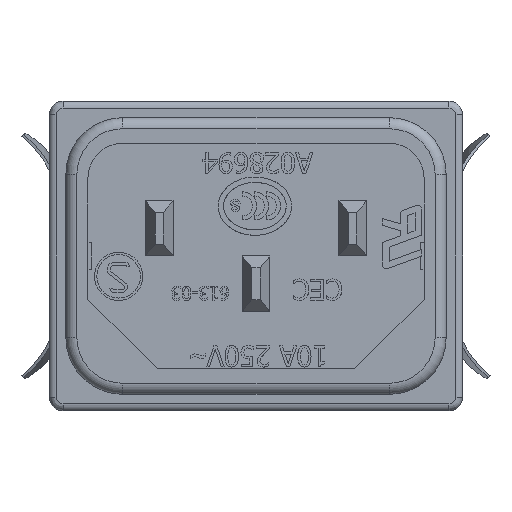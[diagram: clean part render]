
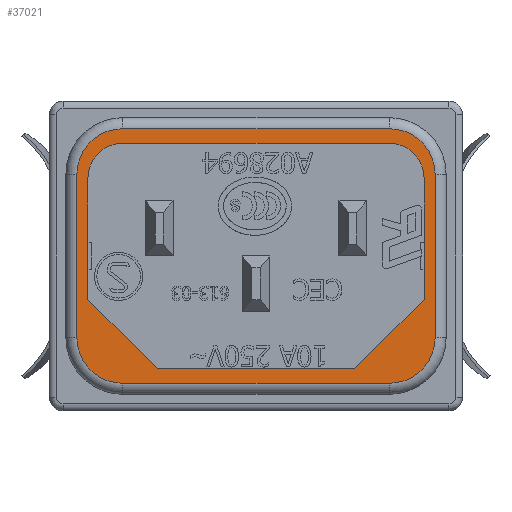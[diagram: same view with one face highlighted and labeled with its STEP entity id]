
A CAD part, front view. The second image highlights one B-rep face of the part: STEP entity #37021.
In plain terms, the highlighted planar face has unit normal (0, -1, 0).
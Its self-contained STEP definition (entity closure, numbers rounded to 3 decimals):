
#2551=LINE('',#53377,#6573);
#2553=LINE('',#53389,#6575);
#2555=LINE('',#53401,#6577);
#2557=LINE('',#53410,#6579);
#2564=LINE('',#53426,#6586);
#2565=LINE('',#53430,#6587);
#2566=LINE('',#53432,#6588);
#2567=LINE('',#53434,#6589);
#2568=LINE('',#53436,#6590);
#2569=LINE('',#53437,#6591);
#6573=VECTOR('',#43580,10.);
#6575=VECTOR('',#43594,10.);
#6577=VECTOR('',#43608,10.);
#6579=VECTOR('',#43620,10.);
#6586=VECTOR('',#43639,10.);
#6587=VECTOR('',#43642,10.);
#6588=VECTOR('',#43643,10.);
#6589=VECTOR('',#43644,10.);
#6590=VECTOR('',#43645,10.);
#6591=VECTOR('',#43646,10.);
#11400=FACE_BOUND('',#14144,.T.);
#12140=FACE_OUTER_BOUND('',#14143,.T.);
#14143=EDGE_LOOP('',(#28066,#28067,#28068,#28069,#28070,#28071,#28072,#28073));
#14144=EDGE_LOOP('',(#28074,#28075,#28076,#28077,#28078,#28079,#28080,#28081));
#15763=CIRCLE('',#39215,3.3);
#15766=CIRCLE('',#39220,3.3);
#15770=CIRCLE('',#39226,3.3);
#15774=CIRCLE('',#39232,3.3);
#15776=CIRCLE('',#39240,2.5);
#15777=CIRCLE('',#39241,2.5);
#17138=VERTEX_POINT('',#53365);
#17141=VERTEX_POINT('',#53370);
#17143=VERTEX_POINT('',#53375);
#17145=VERTEX_POINT('',#53381);
#17147=VERTEX_POINT('',#53387);
#17149=VERTEX_POINT('',#53393);
#17151=VERTEX_POINT('',#53399);
#17153=VERTEX_POINT('',#53405);
#17154=VERTEX_POINT('',#53422);
#17155=VERTEX_POINT('',#53423);
#17156=VERTEX_POINT('',#53425);
#17157=VERTEX_POINT('',#53427);
#17158=VERTEX_POINT('',#53429);
#17159=VERTEX_POINT('',#53431);
#17160=VERTEX_POINT('',#53433);
#17161=VERTEX_POINT('',#53435);
#21185=EDGE_CURVE('',#17141,#17138,#15763,.T.);
#21187=EDGE_CURVE('',#17143,#17141,#2551,.T.);
#21190=EDGE_CURVE('',#17145,#17143,#15766,.T.);
#21193=EDGE_CURVE('',#17147,#17145,#2553,.T.);
#21196=EDGE_CURVE('',#17149,#17147,#15770,.T.);
#21199=EDGE_CURVE('',#17151,#17149,#2555,.T.);
#21202=EDGE_CURVE('',#17153,#17151,#15774,.T.);
#21204=EDGE_CURVE('',#17138,#17153,#2557,.T.);
#21211=EDGE_CURVE('',#17154,#17155,#15776,.T.);
#21212=EDGE_CURVE('',#17155,#17156,#2564,.T.);
#21213=EDGE_CURVE('',#17156,#17157,#15777,.T.);
#21214=EDGE_CURVE('',#17157,#17158,#2565,.T.);
#21215=EDGE_CURVE('',#17158,#17159,#2566,.T.);
#21216=EDGE_CURVE('',#17159,#17160,#2567,.T.);
#21217=EDGE_CURVE('',#17160,#17161,#2568,.T.);
#21218=EDGE_CURVE('',#17161,#17154,#2569,.T.);
#28066=ORIENTED_EDGE('',*,*,#21185,.F.);
#28067=ORIENTED_EDGE('',*,*,#21187,.F.);
#28068=ORIENTED_EDGE('',*,*,#21190,.F.);
#28069=ORIENTED_EDGE('',*,*,#21193,.F.);
#28070=ORIENTED_EDGE('',*,*,#21196,.F.);
#28071=ORIENTED_EDGE('',*,*,#21199,.F.);
#28072=ORIENTED_EDGE('',*,*,#21202,.F.);
#28073=ORIENTED_EDGE('',*,*,#21204,.F.);
#28074=ORIENTED_EDGE('',*,*,#21211,.T.);
#28075=ORIENTED_EDGE('',*,*,#21212,.T.);
#28076=ORIENTED_EDGE('',*,*,#21213,.T.);
#28077=ORIENTED_EDGE('',*,*,#21214,.T.);
#28078=ORIENTED_EDGE('',*,*,#21215,.T.);
#28079=ORIENTED_EDGE('',*,*,#21216,.T.);
#28080=ORIENTED_EDGE('',*,*,#21217,.T.);
#28081=ORIENTED_EDGE('',*,*,#21218,.T.);
#35507=PLANE('',#39239);
#37021=ADVANCED_FACE('',(#12140,#11400),#35507,.T.);
#39215=AXIS2_PLACEMENT_3D('',#53372,#43574,#43575);
#39220=AXIS2_PLACEMENT_3D('',#53383,#43586,#43587);
#39226=AXIS2_PLACEMENT_3D('',#53395,#43600,#43601);
#39232=AXIS2_PLACEMENT_3D('',#53407,#43614,#43615);
#39239=AXIS2_PLACEMENT_3D('',#53421,#43635,#43636);
#39240=AXIS2_PLACEMENT_3D('',#53424,#43637,#43638);
#39241=AXIS2_PLACEMENT_3D('',#53428,#43640,#43641);
#43574=DIRECTION('center_axis',(0.,1.,0.));
#43575=DIRECTION('ref_axis',(0.707,0.,-0.707));
#43580=DIRECTION('',(0.,0.,-1.));
#43586=DIRECTION('center_axis',(0.,1.,0.));
#43587=DIRECTION('ref_axis',(0.707,0.,0.707));
#43594=DIRECTION('',(1.,0.,0.));
#43600=DIRECTION('center_axis',(0.,1.,0.));
#43601=DIRECTION('ref_axis',(-0.707,0.,0.707));
#43608=DIRECTION('',(0.,0.,1.));
#43614=DIRECTION('center_axis',(0.,1.,0.));
#43615=DIRECTION('ref_axis',(-0.707,0.,-0.707));
#43620=DIRECTION('',(-1.,0.,0.));
#43635=DIRECTION('center_axis',(0.,-1.,0.));
#43636=DIRECTION('ref_axis',(1.,0.,0.));
#43637=DIRECTION('center_axis',(0.,1.,0.));
#43638=DIRECTION('ref_axis',(0.,0.,
-1.));
#43639=DIRECTION('',(1.,0.,0.));
#43640=DIRECTION('center_axis',(0.,1.,0.));
#43641=DIRECTION('ref_axis',(-1.,0.,0.));
#43642=DIRECTION('',(0.,0.,-1.));
#43643=DIRECTION('',(-0.707,0.,-0.707));
#43644=DIRECTION('',(-1.,0.,0.));
#43645=DIRECTION('',(-0.707,0.,0.707));
#43646=DIRECTION('',(0.,0.,1.));
#53365=CARTESIAN_POINT('',(-0.453,-21.968,-9.032));
#53370=CARTESIAN_POINT('',(2.847,-21.968,-5.732));
#53372=CARTESIAN_POINT('Origin',(-0.453,-21.968,-5.732));
#53375=CARTESIAN_POINT('',(2.847,-21.968,6.068));
#53377=CARTESIAN_POINT('',(2.847,-21.968,-2.782));
#53381=CARTESIAN_POINT('',(-0.453,-21.968,9.368));
#53383=CARTESIAN_POINT('Origin',(-0.453,-21.968,6.068));
#53387=CARTESIAN_POINT('',(-19.753,-21.968,9.368));
#53389=CARTESIAN_POINT('',(-5.278,-21.968,9.368));
#53393=CARTESIAN_POINT('',(-23.053,-21.968,6.068));
#53395=CARTESIAN_POINT('Origin',(-19.753,-21.968,6.068));
#53399=CARTESIAN_POINT('',(-23.053,-21.968,-5.732));
#53401=CARTESIAN_POINT('',(-23.053,-21.968,3.118));
#53405=CARTESIAN_POINT('',(-19.753,-21.968,-9.032));
#53407=CARTESIAN_POINT('Origin',(-19.753,-21.968,-5.732));
#53410=CARTESIAN_POINT('',(-14.928,-21.968,-9.032));
#53421=CARTESIAN_POINT('Origin',(-10.103,-21.968,0.168));
#53422=CARTESIAN_POINT('',(-22.253,-21.968,5.818));
#53423=CARTESIAN_POINT('',(-19.753,-21.968,8.318));
#53424=CARTESIAN_POINT('Origin',(-19.753,-21.968,5.818));
#53425=CARTESIAN_POINT('',(-0.453,-21.968,8.318));
#53426=CARTESIAN_POINT('',(-14.928,-21.968,8.318));
#53427=CARTESIAN_POINT('',(2.047,-21.968,5.818));
#53428=CARTESIAN_POINT('Origin',(-0.453,-21.968,5.818));
#53429=CARTESIAN_POINT('',(2.047,-21.968,-2.982));
#53430=CARTESIAN_POINT('',(2.047,-21.968,2.993));
#53431=CARTESIAN_POINT('',(-2.953,-21.968,-7.982));
#53432=CARTESIAN_POINT('',(-0.203,-21.968,-5.232));
#53433=CARTESIAN_POINT('',(-17.253,-21.968,-7.982));
#53434=CARTESIAN_POINT('',(-6.528,-21.968,-7.982));
#53435=CARTESIAN_POINT('',(-22.253,-21.968,-2.982));
#53436=CARTESIAN_POINT('',(-17.503,-21.968,-7.732));
#53437=CARTESIAN_POINT('',(-22.253,-21.968,-1.407));
